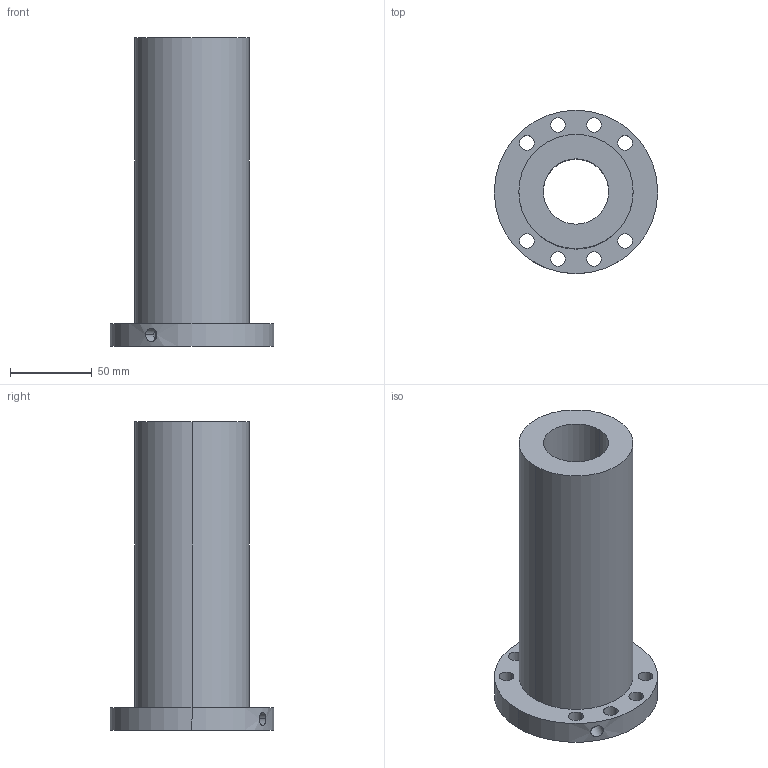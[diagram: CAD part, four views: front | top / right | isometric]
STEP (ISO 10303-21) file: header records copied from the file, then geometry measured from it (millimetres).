
FILE_DESCRIPTION((''),'2;1');
FILE_NAME('40-16K5_635','2008-04-10T',('yanyu'),(''),'PRO/ENGINEER BY PARAMETRIC TECHNOLOGY CORPORATION, 2005070','PRO/ENGINEER BY PARAMETRIC TECHNOLOGY CORPORATION, 2005070','');
FILE_SCHEMA(('CONFIG_CONTROL_DESIGN'));
Length unit declared in the file: millimetre
Products named in the file (1): 40-16K5_635
Bounding box: 100 x 100 x 189 mm (x, y, z)
Volume: 537737.4 mm3; surface area: 82548.5 mm2
Topology: 1 solids, 1 shells, 30 faces, 78 edges, 52 vertices
Faces by surface type: cylinder 26, plane 4
Entity records: 1070 total; most frequent: CARTESIAN_POINT 210, DIRECTION 182, ORIENTED_EDGE 156, AXIS2_PLACEMENT_3D 78, EDGE_CURVE 78, VERTEX_POINT 52, EDGE_LOOP 52, CIRCLE 48
